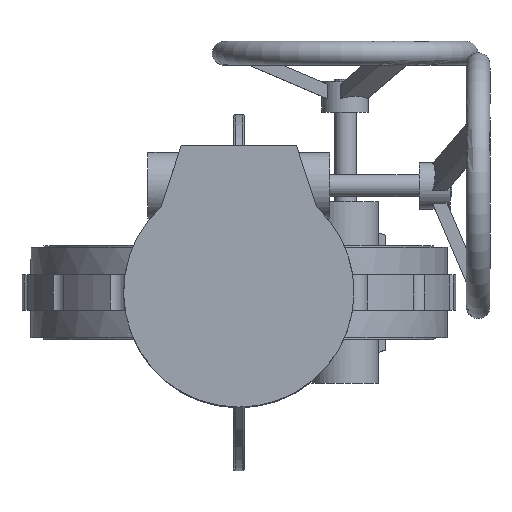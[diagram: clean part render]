
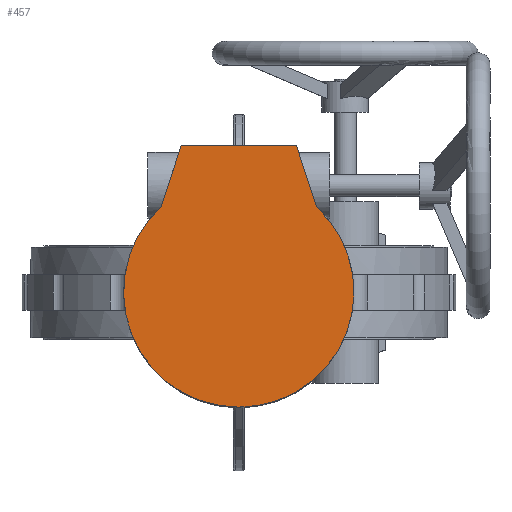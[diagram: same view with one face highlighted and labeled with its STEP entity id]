
A CAD part, top view. The second image highlights one B-rep face of the part: STEP entity #457.
In plain terms, the highlighted planar face has unit normal (0, 0, 1) as drawn and (0, 0, -1) by its records, which use the part's own axes.
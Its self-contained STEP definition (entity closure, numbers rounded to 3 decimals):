
#457 = ADVANCED_FACE( '', ( #1149 ), #1150, .F. );
#1149 = FACE_OUTER_BOUND( '', #2584, .T. );
#1150 = PLANE( '', #2585 );
#2584 = EDGE_LOOP( '', ( #4854, #4855, #4856, #4857 ) );
#2585 = AXIS2_PLACEMENT_3D( '', #4858, #4859, #4860 );
#4854 = ORIENTED_EDGE( '', *, *, #7667, .F. );
#4855 = ORIENTED_EDGE( '', *, *, #7668, .F. );
#4856 = ORIENTED_EDGE( '', *, *, #7669, .F. );
#4857 = ORIENTED_EDGE( '', *, *, #7670, .F. );
#4858 = CARTESIAN_POINT( '', ( 0., 0., 0. ) );
#4859 = DIRECTION( '', ( 0., 0., 1. ) );
#4860 = DIRECTION( '', ( 1., 0., 0. ) );
#7667 = EDGE_CURVE( '', #9010, #9011, #9012, .T. );
#7668 = EDGE_CURVE( '', #9013, #9010, #9014, .T. );
#7669 = EDGE_CURVE( '', #9015, #9013, #9016, .T. );
#7670 = EDGE_CURVE( '', #9011, #9015, #9017, .T. );
#9010 = VERTEX_POINT( '', #12409 );
#9011 = VERTEX_POINT( '', #12410 );
#9012 = LINE( '', #12411, #12412 );
#9013 = VERTEX_POINT( '', #12413 );
#9014 = CIRCLE( '', #12414, 130. );
#9015 = VERTEX_POINT( '', #12415 );
#9016 = LINE( '', #12416, #12417 );
#9017 = LINE( '', #12418, #12419 );
#12409 = CARTESIAN_POINT( '', ( 96.144, -87.5, 0. ) );
#12410 = CARTESIAN_POINT( '', ( 165., -65., 0. ) );
#12411 = CARTESIAN_POINT( '', ( 165., -65., 0. ) );
#12412 = VECTOR( '', #17175, 1000. );
#12413 = CARTESIAN_POINT( '', ( 96.144, 87.5, 0. ) );
#12414 = AXIS2_PLACEMENT_3D( '', #17176, #17177, #17178 );
#12415 = CARTESIAN_POINT( '', ( 165., 65., 0. ) );
#12416 = CARTESIAN_POINT( '', ( 165., 65., 0. ) );
#12417 = VECTOR( '', #17179, 1000. );
#12418 = CARTESIAN_POINT( '', ( 165., -65., 0. ) );
#12419 = VECTOR( '', #17180, 1000. );
#17175 = DIRECTION( '', ( 0.951, 0.311, 0. ) );
#17176 = CARTESIAN_POINT( '', ( 0., 0., 0. ) );
#17177 = DIRECTION( '', ( 0., 0., 1. ) );
#17178 = DIRECTION( '', ( 1., 0., 0. ) );
#17179 = DIRECTION( '', ( -0.951, 0.311, 0. ) );
#17180 = DIRECTION( '', ( 0., 1., 0. ) );
